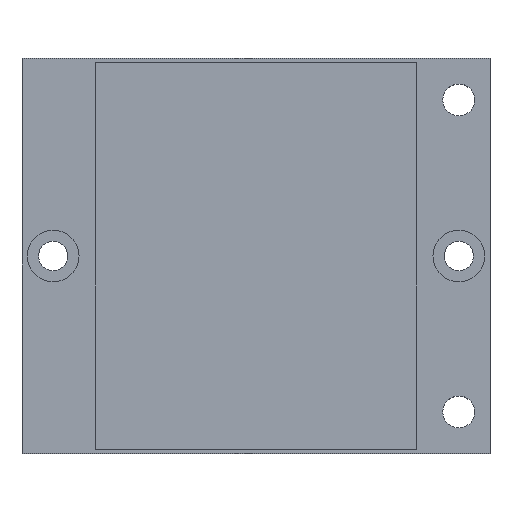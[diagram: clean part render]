
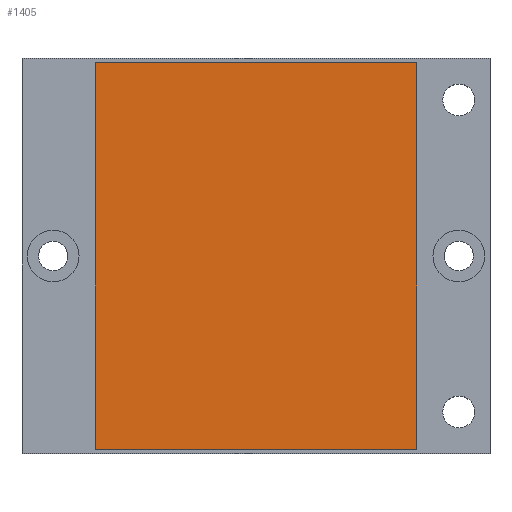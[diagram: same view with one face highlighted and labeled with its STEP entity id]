
A CAD part, top view. The second image highlights one B-rep face of the part: STEP entity #1405.
In plain terms, the highlighted planar face has unit normal (0, 0, 1).
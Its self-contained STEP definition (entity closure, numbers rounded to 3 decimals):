
#474=DIRECTION('',(-1.,0.,0.));
#475=VECTOR('',#474,51.5);
#476=CARTESIAN_POINT('',(25.75,31.,8.25));
#477=LINE('',#476,#475);
#494=DIRECTION('',(-1.,0.,0.));
#495=VECTOR('',#494,51.5);
#496=CARTESIAN_POINT('',(25.75,-31.,8.25));
#497=LINE('',#496,#495);
#498=DIRECTION('',(0.,1.,0.));
#499=VECTOR('',#498,62.);
#500=CARTESIAN_POINT('',(25.75,-31.,8.25));
#501=LINE('',#500,#499);
#502=DIRECTION('',(0.,1.,0.));
#503=VECTOR('',#502,62.);
#504=CARTESIAN_POINT('',(-25.75,-31.,8.25));
#505=LINE('',#504,#503);
#650=CARTESIAN_POINT('',(25.75,-31.,8.25));
#651=VERTEX_POINT('',#650);
#656=CARTESIAN_POINT('',(-25.75,-31.,8.25));
#657=VERTEX_POINT('',#656);
#658=CARTESIAN_POINT('',(25.75,31.,8.25));
#659=VERTEX_POINT('',#658);
#664=CARTESIAN_POINT('',(-25.75,31.,8.25));
#665=VERTEX_POINT('',#664);
#1392=CARTESIAN_POINT('',(0.,0.,8.25));
#1393=DIRECTION('',(0.,0.,1.));
#1394=DIRECTION('',(0.,-1.,0.));
#1395=AXIS2_PLACEMENT_3D('',#1392,#1393,#1394);
#1396=PLANE('',#1395);
#1397=ORIENTED_EDGE('',*,*,#1334,.T.);
#1399=ORIENTED_EDGE('',*,*,#1398,.T.);
#1400=ORIENTED_EDGE('',*,*,#1377,.F.);
#1402=ORIENTED_EDGE('',*,*,#1401,.F.);
#1403=EDGE_LOOP('',(#1397,#1399,#1400,#1402));
#1404=FACE_OUTER_BOUND('',#1403,.F.);
#1405=ADVANCED_FACE('',(#1404),#1396,.T.);
#1334=EDGE_CURVE('',#651,#657,#497,.T.);
#1377=EDGE_CURVE('',#659,#665,#477,.T.);
#1398=EDGE_CURVE('',#657,#665,#505,.T.);
#1401=EDGE_CURVE('',#651,#659,#501,.T.);
